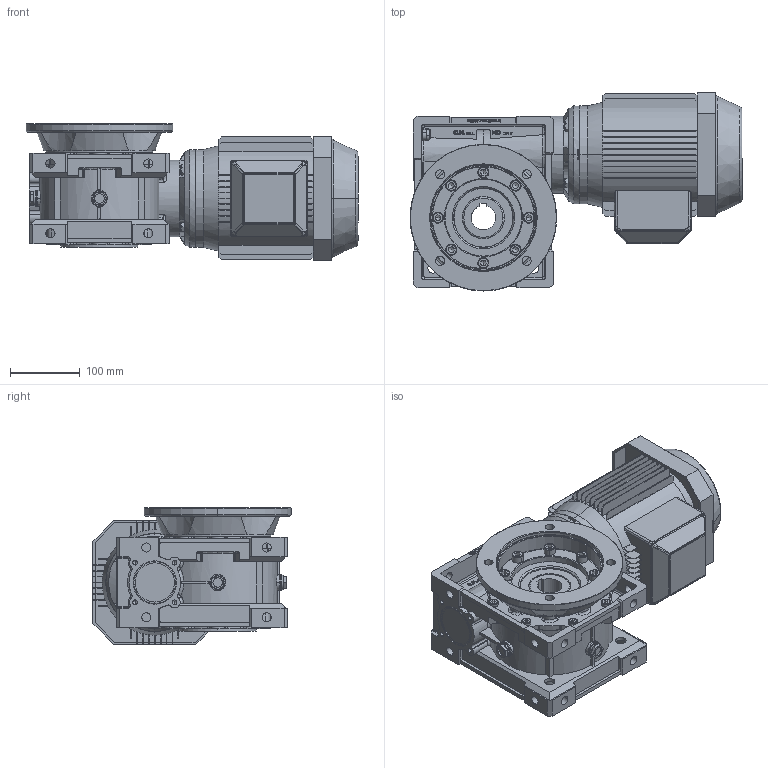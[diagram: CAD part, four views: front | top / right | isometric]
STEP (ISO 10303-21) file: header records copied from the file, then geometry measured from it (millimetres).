
FILE_DESCRIPTION((''),'2;1');
FILE_NAME('F:\Ghirri\3D\MV_V90\stp\MVFU90_B14-90S.stp','2005-06-13T20:15:47',('Administrator'),(''),'Autodesk Inventor 9','Autodesk Inventor 9','');
FILE_SCHEMA(('AUTOMOTIVE_DESIGN { 1 0 10303 214 1 1 1 1 }'));
Length unit declared in the file: millimetre
Products named in the file (17): MVFU90_B14-90S; 4009001-A0; 4009004-A0; TCCE-8X20-ribassata; 4009008-A0; UNI-ISO 6194-1 (4) Tipo4 60 x  85 x  8; Capp-62-7; Guarnizione-tappo-3-8-gas; Tappo-3-8-gas-nero; Paraolio-40-68-7; motori B14 90S; 4011006-B0; UNI 5739  (Filetto regolare) M8 x 25; FU_MV90; UNI 5931  (Filetto regolare) M 10 x  25
Assembly tree (38 placements, depth 3):
  MVFU90_B14-90S
    4009001-A0
    4009004-A0
    TCCE-8X20-ribassata  x8
    4009008-A0
    UNI-ISO 6194-1 (4) Tipo4 60 x  85 x  8  x2
    Capp-62-7
    Guarnizione-tappo-3-8-gas  x3
    Tappo-3-8-gas-nero  x3
    Paraolio-40-68-7
    motori B14 90S
    4011006-B0
      4011006-B0
      UNI 5739  (Filetto regolare) M8 x 25  x4
    FU_MV90
      FU_MV90
      UNI 5931  (Filetto regolare) M 10 x  25  x8
Bounding box: 475 x 283.5 x 195.5 mm (x, y, z)
Volume: 9129037.6 mm3; surface area: 1042160.3 mm2
Topology: 36 solids, 39 shells, 3903 faces, 10166 edges, 6452 vertices
Faces by surface type: plane 1559, cylinder 1138, bspline 921, cone 205, torus 76, sphere 4
Entity records: 124958 total; most frequent: CARTESIAN_POINT 43142, ORIENTED_EDGE 17758, DIRECTION 16064, EDGE_CURVE 8879, VERTEX_POINT 5740, AXIS2_PLACEMENT_3D 5590, VECTOR 4884, LINE 4884
